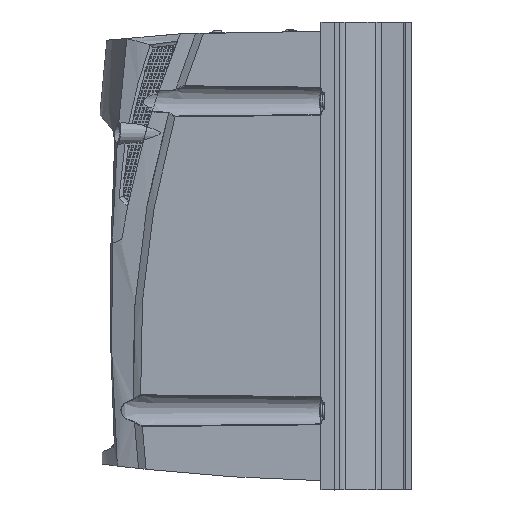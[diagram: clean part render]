
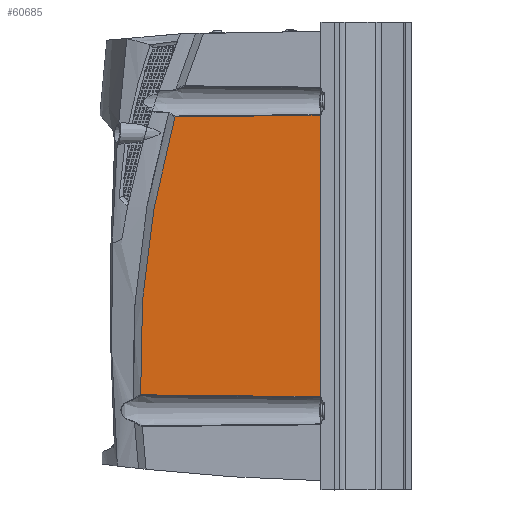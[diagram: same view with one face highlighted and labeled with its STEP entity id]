
A CAD part, left-side view. The second image highlights one B-rep face of the part: STEP entity #60685.
In plain terms, the highlighted planar face has unit normal (-1, 0.018, 0).
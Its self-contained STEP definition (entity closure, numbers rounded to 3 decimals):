
#3108 = CARTESIAN_POINT ( 'NONE',  ( -83.71, 16.571, -77.166 ) ) ;
#4670 = CARTESIAN_POINT ( 'NONE',  ( -82.183, 104.04, -76.249 ) ) ;
#6558 = VERTEX_POINT ( 'NONE', #57403 ) ;
#7522 = CARTESIAN_POINT ( 'NONE',  ( -83.903, 5.491, -128.5 ) ) ;
#7592 = CARTESIAN_POINT ( 'NONE',  ( -83.231, 43.99, -76.872 ) ) ;
#10746 = AXIS2_PLACEMENT_3D ( 'NONE', #32248, #26203, #57335 ) ;
#11065 = ORIENTED_EDGE ( 'NONE', *, *, #32739, .T. ) ;
#11810 = CARTESIAN_POINT ( 'NONE',  ( -82.977, 58.582, 76.715 ) ) ;
#12697 = CARTESIAN_POINT ( 'NONE',  ( -82.457, 88.34, 65.229 ) ) ;
#13655 = CARTESIAN_POINT ( 'NONE',  ( -83.517, 27.65, -77.046 ) ) ;
#14057 = CARTESIAN_POINT ( 'NONE',  ( -82.726, 72.915, -76.573 ) ) ;
#14067 = FACE_OUTER_BOUND ( 'NONE', #67636, .T. ) ;
#14838 = CARTESIAN_POINT ( 'NONE',  ( -82.183, 104.038, -76.262 ) ) ;
#15225 = CARTESIAN_POINT ( 'NONE',  ( -82.834, 66.781, -76.635 ) ) ;
#17173 = CARTESIAN_POINT ( 'NONE',  ( -82.177, 104.388, -54.147 ) ) ;
#18276 = CARTESIAN_POINT ( 'NONE',  ( -83.903, 5.491, 77.289 ) ) ;
#22886 = VERTEX_POINT ( 'NONE', #59969 ) ;
#23635 = CARTESIAN_POINT ( 'NONE',  ( -82.183, 104.042, -76.222 ) ) ;
#24437 = CARTESIAN_POINT ( 'NONE',  ( -82.513, 85.127, 76.449 ) ) ;
#26203 = DIRECTION ( 'NONE',  ( -1., 0.017, 0. ) ) ;
#26585 = ORIENTED_EDGE ( 'NONE', *, *, #41155, .T. ) ;
#27714 = VERTEX_POINT ( 'NONE', #65057 ) ;
#27761 = CARTESIAN_POINT ( 'NONE',  ( -83.903, 5.491, -77.289 ) ) ;
#28280 = VECTOR ( 'NONE', #50797, 1000. ) ;
#28942 = CARTESIAN_POINT ( 'NONE',  ( -82.183, 104.042, -76.222 ) ) ;
#28958 = ORIENTED_EDGE ( 'NONE', *, *, #52198, .T. ) ;
#29731 = CARTESIAN_POINT ( 'NONE',  ( -82.183, 104.038, -76.262 ) ) ;
#30513 = CARTESIAN_POINT ( 'NONE',  ( -82.183, 104.041, -76.235 ) ) ;
#32248 = CARTESIAN_POINT ( 'NONE',  ( -84.001, -0.087, -128.5 ) ) ;
#32739 = EDGE_CURVE ( 'NONE', #22886, #57394, #75140, .T. ) ;
#38720 = CARTESIAN_POINT ( 'NONE',  ( -83.14, 49.251, -76.817 ) ) ;
#38898 = EDGE_CURVE ( 'NONE', #6558, #27714, #62930, .T. ) ;
#40375 = CARTESIAN_POINT ( 'NONE',  ( -82.183, 104.042, -76.222 ) ) ;
#41155 = EDGE_CURVE ( 'NONE', #79233, #6558, #52877, .T. ) ;
#49101 = CARTESIAN_POINT ( 'NONE',  ( -82.212, 102.394, -14.376 ) ) ;
#49407 = CARTESIAN_POINT ( 'NONE',  ( -82.513, 85.127, 76.449 ) ) ;
#49847 = B_SPLINE_CURVE_WITH_KNOTS ( 'NONE', 3,
 ( #28942, #30513, #4670, #29731 ),
 .UNSPECIFIED., .F., .F.,
 ( 4, 4 ),
 ( 0., 0. ),
 .UNSPECIFIED. ) ;
#50393 = CARTESIAN_POINT ( 'NONE',  ( -82.183, 104.038, -76.262 ) ) ;
#50797 = DIRECTION ( 'NONE',  ( 0., 0., 1. ) ) ;
#52198 = EDGE_CURVE ( 'NONE', #57394, #79233, #49847, .T. ) ;
#52877 = B_SPLINE_CURVE_WITH_KNOTS ( 'NONE', 3,
 ( #14838, #75561, #69478, #14057, #15225, #62996, #57325, #38720, #7592, #58499, #13655, #3108, #27761 ),
 .UNSPECIFIED., .F., .F.,
 ( 4, 3, 3, 3, 4 ),
 ( 0., 0.031, 0.05, 0.065, 0.099 ),
 .UNSPECIFIED. ) ;
#52968 = B_SPLINE_CURVE_WITH_KNOTS ( 'NONE', 3,
 ( #18276, #74109, #11810, #49407 ),
 .UNSPECIFIED., .F., .F.,
 ( 4, 4 ),
 ( 0., 0.08 ),
 .UNSPECIFIED. ) ;
#54370 = CARTESIAN_POINT ( 'NONE',  ( -82.408, 91.157, 53.895 ) ) ;
#54528 = ORIENTED_EDGE ( 'NONE', *, *, #38898, .T. ) ;
#57325 = CARTESIAN_POINT ( 'NONE',  ( -83.048, 54.512, -76.762 ) ) ;
#57335 = DIRECTION ( 'NONE',  ( 0.017, 1., 0. ) ) ;
#57394 = VERTEX_POINT ( 'NONE', #40375 ) ;
#57403 = CARTESIAN_POINT ( 'NONE',  ( -83.903, 5.491, -77.289 ) ) ;
#58499 = CARTESIAN_POINT ( 'NONE',  ( -83.323, 38.73, -76.928 ) ) ;
#59969 = CARTESIAN_POINT ( 'NONE',  ( -82.513, 85.127, 76.449 ) ) ;
#60037 = CARTESIAN_POINT ( 'NONE',  ( -82.273, 98.91, 14.19 ) ) ;
#60479 = ORIENTED_EDGE ( 'NONE', *, *, #70945, .T. ) ;
#60685 = ADVANCED_FACE ( 'NONE', ( #14067 ), #68699, .T. ) ;
#62930 = LINE ( 'NONE', #7522, #28280 ) ;
#62996 = CARTESIAN_POINT ( 'NONE',  ( -82.941, 60.647, -76.698 ) ) ;
#65057 = CARTESIAN_POINT ( 'NONE',  ( -83.903, 5.491, 77.289 ) ) ;
#66923 = CARTESIAN_POINT ( 'NONE',  ( -82.314, 96.547, 28.398 ) ) ;
#67636 = EDGE_LOOP ( 'NONE', ( #26585, #54528, #60479, #11065, #28958 ) ) ;
#68699 = PLANE ( 'NONE',  #10746 ) ;
#69478 = CARTESIAN_POINT ( 'NONE',  ( -82.545, 83.29, -76.467 ) ) ;
#70945 = EDGE_CURVE ( 'NONE', #27714, #22886, #52968, .T. ) ;
#74109 = CARTESIAN_POINT ( 'NONE',  ( -83.44, 32.036, 76.994 ) ) ;
#75140 = B_SPLINE_CURVE_WITH_KNOTS ( 'NONE', 3,
 ( #24437, #12697, #54370, #66923, #60037, #49101, #79086, #17173, #79472, #23635 ),
 .UNSPECIFIED., .F., .F.,
 ( 4, 2, 2, 2, 4 ),
 ( 0., 0.035, 0.079, 0.122, 0.155 ),
 .UNSPECIFIED. ) ;
#75561 = CARTESIAN_POINT ( 'NONE',  ( -82.364, 93.664, -76.363 ) ) ;
#79086 = CARTESIAN_POINT ( 'NONE',  ( -82.192, 103.514, -28.736 ) ) ;
#79233 = VERTEX_POINT ( 'NONE', #50393 ) ;
#79472 = CARTESIAN_POINT ( 'NONE',  ( -82.177, 104.399, -65.19 ) ) ;
